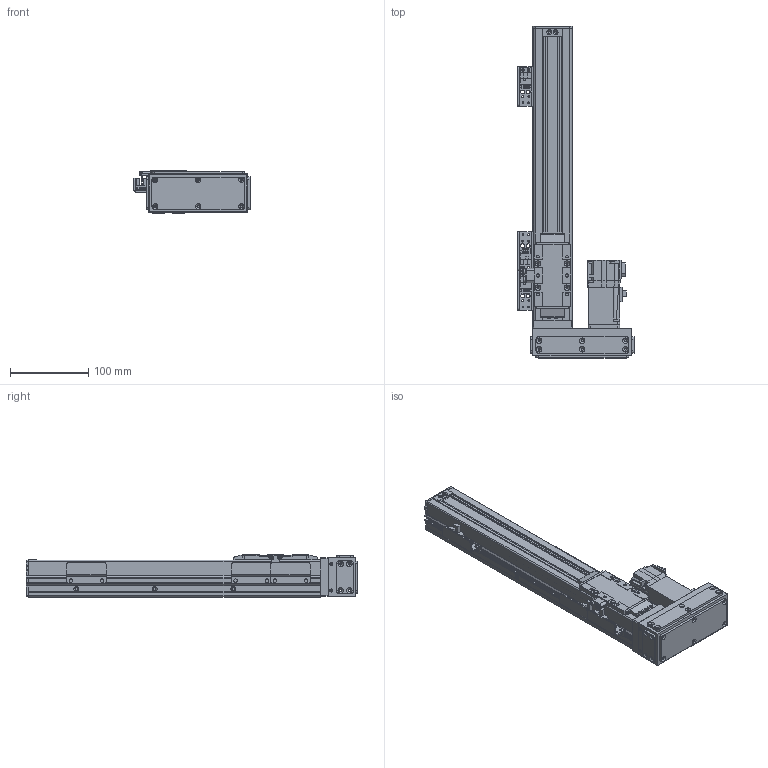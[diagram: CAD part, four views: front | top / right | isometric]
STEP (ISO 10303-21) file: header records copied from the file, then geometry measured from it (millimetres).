
FILE_DESCRIPTION(/* description */ (''),/* implementation_level */ '2;1');
FILE_NAME(/* name */ '\\192.168.0.160\disk1\HAN SHIN Master\B-설계부문\C-표준\B-2024년\BC02-표준도면\+로봇 개선표준도면\홈페이지 표준 도면\표준 승인도 폴더 - 재작업\3D\HC Type\HC50 - 재작업\R-Type\HC50-R10-N-0250-L10.stp',/* time_stamp */ '2024-11-29T12:42:34+09:00',/* author */ ('user'),/* organization */ (''),/* preprocessor_version */ 'ST-DEVELOPER v18.1',/* originating_system */ 'Autodesk Inventor 2022',/* authorisation */ '');
FILE_SCHEMA (('AUTOMOTIVE_DESIGN { 1 0 10303 214 3 1 1 }'));
Length unit declared in the file: millimetre
Products named in the file (27): HC50-R10-N-0200-L10; HC50 BASE-R1; HC50 REAR BLOCK; HR45 FRONT BLOCK; 45- BEARING COVER; HC45 UPCOVER; HC75,90 SHEET PLATE; HC45, HC65 STOPPER; MAGNET(∅10X3); HC50 REAR COVER-R3; ESF1210 NUT; HC45 TABLE; HC75 TABLE COVER; HC45 TABLE SIDE COVER; hg-kr13_; HR45 ACRYL COVER(측면); HR45 MOTOR PLATE 100W; HR45 ACRYL COVER(정면); HR45 LR BELT COVER; HR45 ACRYL COVER(상하면); HC50 L MOTOR PLATE_MIR; SENSOR DOG BRK; HC50 SENSOR DOG; ISO 4762 - M3 x 16; HC50SIDECOVER000; SENSOR BRK(EE-SX674A); EE_SX674A
Assembly tree (38 placements, depth 2):
  HC50-R10-N-0200-L10
    HC50 BASE-R1
    HC50 REAR BLOCK
    HR45 FRONT BLOCK
    45- BEARING COVER
    HC45 UPCOVER
    HC75,90 SHEET PLATE  x2
    HC45, HC65 STOPPER  x2
    MAGNET(∅10X3)  x3
    HC50 REAR COVER-R3
    ESF1210 NUT
    HC50SIDECOVER000  x2
    HC45 TABLE SIDE COVER  x2
    HC45 TABLE
    HC75 TABLE COVER
    hg-kr13_
    HR45 ACRYL COVER(측면)
    HR45 MOTOR PLATE 100W
    HR45 ACRYL COVER(정면)
    HR45 ACRYL COVER(상하면)  x2
    HR45 LR BELT COVER
    HC50 L MOTOR PLATE_MIR
    SENSOR BRK(EE-SX674A)  x3
    EE_SX674A  x3
    SENSOR DOG BRK
    HC50 SENSOR DOG
    ISO 4762 - M3 x 16  x2
Bounding box: 148 x 423 x 54 mm (x, y, z)
Volume: 574768.4 mm3; surface area: 369981.6 mm2
Topology: 40 solids, 40 shells, 1573 faces, 4199 edges, 2756 vertices
Faces by surface type: plane 866, cylinder 606, cone 88, bspline 9, torus 4
Full cylindrical faces by diameter (mm): 2.013 x4, 2.459 x97, 3 x2, 3.242 x20, 3.4 x32, 3.5 x44, 4 x12, 4.5 x12, 5 x14, 5.5 x2, 5.6 x2, 5.9 x2, 6 x21, 6.5 x2, 8 x1, 9 x2, 10 x4, 10.5 x1, 12 x1, 15 x3, 17 x1, 18 x1, 21 x2, 22 x4, 24 x1, 24.5 x1, 26 x1, 30 x2
Entity records: 40826 total; most frequent: CARTESIAN_POINT 7816, DIRECTION 6721, ORIENTED_EDGE 6446, EDGE_CURVE 3223, AXIS2_PLACEMENT_3D 2289, LINE 2143, VECTOR 2143, VERTEX_POINT 2139
